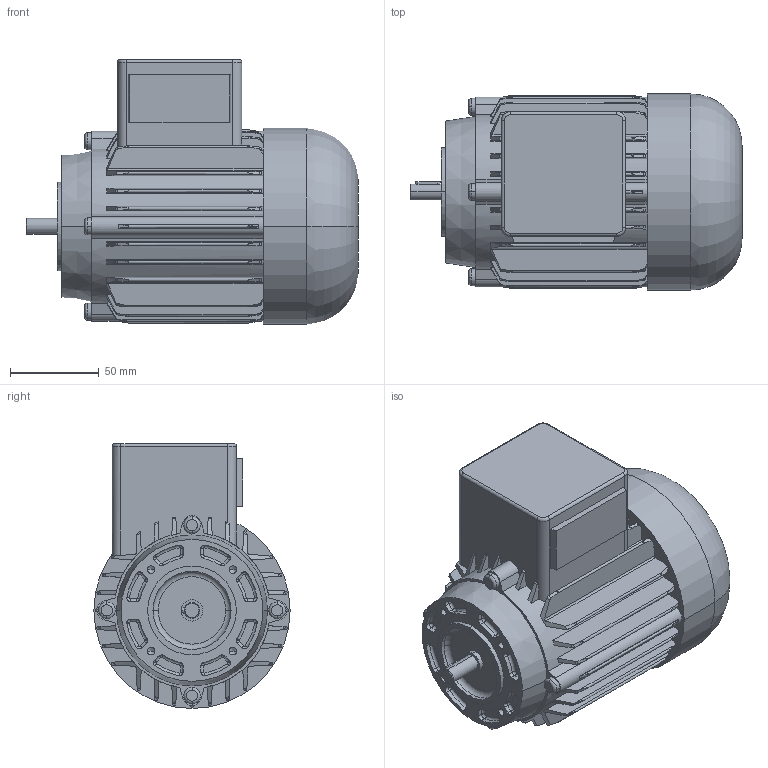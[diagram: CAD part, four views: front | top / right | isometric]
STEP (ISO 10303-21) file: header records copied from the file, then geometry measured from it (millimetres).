
FILE_DESCRIPTION(('OneSpaceDesigner STEP Export'),'2;1');
FILE_NAME('OD5_B14_FT65.stp','2008-04-24T11:21:26',(''),(''),'OneSpace Designer STEP processor (Jan. 2003) for AP214(CD)(Solid Model)','OneSpace Designer 12.01D 09-Jul-2004 (C) CoCreate Software GmbH','');
FILE_SCHEMA(('AUTOMOTIVE_DESIGN_CC2 {1 2 10303 214 -1 1 5 1}'));
Length unit declared in the file: millimetre
Products named in the file (2): OD5_B14_FT65
Assembly tree (1 placements, depth 2):
  OD5_B14_FT65
    OD5_B14_FT65
Bounding box: 187 x 110.5 x 149.25 mm (x, y, z)
Volume: 1482057.3 mm3; surface area: 122737.7 mm2
Topology: 1 solids, 1 shells, 546 faces, 1459 edges, 938 vertices
Faces by surface type: cylinder 174, plane 143, torus 120, cone 109
Entity records: 35470 total; most frequent: CARTESIAN_POINT 23092, ORIENTED_EDGE 2902, DIRECTION 2225, EDGE_CURVE 1451, VERTEX_POINT 938, AXIS2_PLACEMENT_3D 870, EDGE_LOOP 577, FACE_OUTER_BOUND 546
